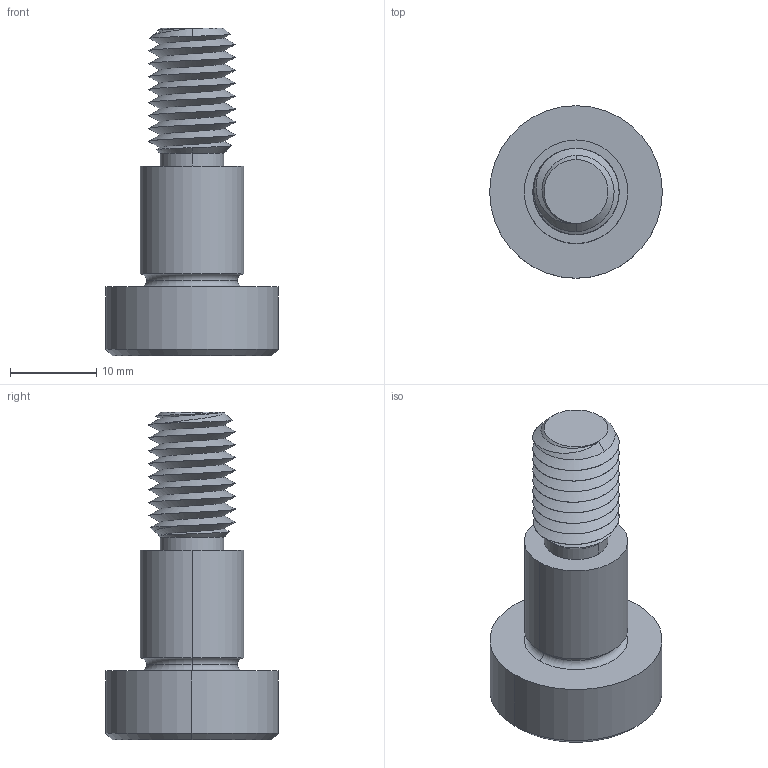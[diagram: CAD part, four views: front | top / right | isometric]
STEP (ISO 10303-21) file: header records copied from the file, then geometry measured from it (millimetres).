
FILE_DESCRIPTION (( 'STEP AP203' ), '1' );
FILE_NAME ('P0130.120-014-B2.step', '2021-11-09T22:02:25', ( '' ), ( '' ), 'SwSTEP 2.0', 'SolidWorks 2019', '' );
FILE_SCHEMA (( 'CONFIG_CONTROL_DESIGN' ));
Length unit declared in the file: millimetre
Products named in the file (1): P0130.120-014-B2
Bounding box: 20 x 20 x 38 mm (x, y, z)
Volume: 4762 mm3; surface area: 2585 mm2
Topology: 1 solids, 1 shells, 60 faces, 142 edges, 85 vertices
Faces by surface type: cylinder 23, plane 16, cone 15, torus 4, bspline 2
Entity records: 3534 total; most frequent: CARTESIAN_POINT 2187, ORIENTED_EDGE 280, DIRECTION 247, EDGE_CURVE 140, AXIS2_PLACEMENT_3D 99, VERTEX_POINT 85, EDGE_LOOP 63, FACE_OUTER_BOUND 60
